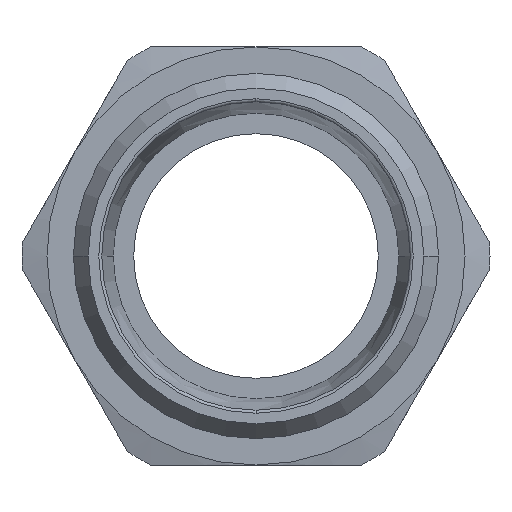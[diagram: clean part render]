
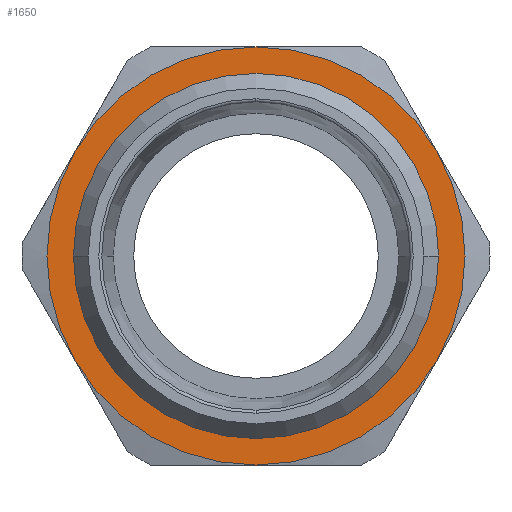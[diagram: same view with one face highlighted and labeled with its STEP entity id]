
A CAD part, left-side view. The second image highlights one B-rep face of the part: STEP entity #1650.
In plain terms, the highlighted planar face has unit normal (-1, 0, 0) as drawn and (0, 0, 1) by its records, which use the part's own axes.
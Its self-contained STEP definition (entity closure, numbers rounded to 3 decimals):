
#808=CARTESIAN_POINT('',(-17.65,0.,4.0));
#809=VERTEX_POINT('',#808);
#835=CARTESIAN_POINT('',(17.65,0.,4.0));
#836=VERTEX_POINT('',#835);
#844=CARTESIAN_POINT('',(0.,0.,4.0));
#845=DIRECTION('',(0.0,0.0,1.0));
#846=DIRECTION('',(-1.0,0.0,0.0));
#847=AXIS2_PLACEMENT_3D('',#844,#845,#846);
#848=CIRCLE('',#847,17.65);
#849=EDGE_CURVE('',#836,#809,#848,.T.);
#1530=CARTESIAN_POINT('',(0.,-17.65,4.));
#1531=VERTEX_POINT('',#1530);
#1532=CARTESIAN_POINT('',(0.,0.,4.0));
#1533=DIRECTION('',(0.0,0.0,1.0));
#1534=DIRECTION('',(-1.0,0.0,0.0));
#1535=AXIS2_PLACEMENT_3D('',#1532,#1533,#1534);
#1536=CIRCLE('',#1535,17.65);
#1537=EDGE_CURVE('',#809,#1531,#1536,.T.);
#1539=CARTESIAN_POINT('',(0.,0.,4.0));
#1540=DIRECTION('',(0.0,0.0,1.0));
#1541=DIRECTION('',(-1.0,0.0,0.0));
#1542=AXIS2_PLACEMENT_3D('',#1539,#1540,#1541);
#1543=CIRCLE('',#1542,17.65);
#1544=EDGE_CURVE('',#1531,#836,#1543,.T.);
#1584=CARTESIAN_POINT('',(0.,0.,4.0));
#1585=DIRECTION('',(0.0,0.0,1.0));
#1586=DIRECTION('',(1.0,0.0,0.0));
#1587=AXIS2_PLACEMENT_3D('',#1584,#1585,#1586);
#1588=PLANE('',#1587);
#1589=CARTESIAN_POINT('',(10.25,-17.754,4.0));
#1590=VERTEX_POINT('',#1589);
#1591=CARTESIAN_POINT('',(20.5,0.0,4.0));
#1592=VERTEX_POINT('',#1591);
#1593=CARTESIAN_POINT('',(0.,0.0,4.0));
#1594=DIRECTION('',(0.0,0.0,1.0));
#1595=DIRECTION('',(1.0,0.0,0.0));
#1596=AXIS2_PLACEMENT_3D('',#1593,#1594,#1595);
#1597=CIRCLE('',#1596,20.5);
#1598=EDGE_CURVE('',#1590,#1592,#1597,.T.);
#1599=ORIENTED_EDGE('',*,*,#1598,.T.);
#1600=CARTESIAN_POINT('',(10.25,17.754,4.0));
#1601=VERTEX_POINT('',#1600);
#1602=CARTESIAN_POINT('',(0.,0.0,4.0));
#1603=DIRECTION('',(0.0,0.0,1.0));
#1604=DIRECTION('',(1.0,0.0,0.0));
#1605=AXIS2_PLACEMENT_3D('',#1602,#1603,#1604);
#1606=CIRCLE('',#1605,20.5);
#1607=EDGE_CURVE('',#1592,#1601,#1606,.T.);
#1608=ORIENTED_EDGE('',*,*,#1607,.T.);
#1609=CARTESIAN_POINT('',(-10.25,17.754,4.0));
#1610=VERTEX_POINT('',#1609);
#1611=CARTESIAN_POINT('',(0.,0.0,4.0));
#1612=DIRECTION('',(0.0,0.0,1.0));
#1613=DIRECTION('',(1.0,0.0,0.0));
#1614=AXIS2_PLACEMENT_3D('',#1611,#1612,#1613);
#1615=CIRCLE('',#1614,20.5);
#1616=EDGE_CURVE('',#1601,#1610,#1615,.T.);
#1617=ORIENTED_EDGE('',*,*,#1616,.T.);
#1618=CARTESIAN_POINT('',(-20.5,0.,4.0));
#1619=VERTEX_POINT('',#1618);
#1620=CARTESIAN_POINT('',(0.,0.0,4.0));
#1621=DIRECTION('',(0.0,0.0,1.0));
#1622=DIRECTION('',(1.0,0.0,0.0));
#1623=AXIS2_PLACEMENT_3D('',#1620,#1621,#1622);
#1624=CIRCLE('',#1623,20.5);
#1625=EDGE_CURVE('',#1610,#1619,#1624,.T.);
#1626=ORIENTED_EDGE('',*,*,#1625,.T.);
#1627=CARTESIAN_POINT('',(-10.25,-17.754,4.0));
#1628=VERTEX_POINT('',#1627);
#1629=CARTESIAN_POINT('',(0.,0.0,4.0));
#1630=DIRECTION('',(0.0,0.0,1.0));
#1631=DIRECTION('',(1.0,0.0,0.0));
#1632=AXIS2_PLACEMENT_3D('',#1629,#1630,#1631);
#1633=CIRCLE('',#1632,20.5);
#1634=EDGE_CURVE('',#1619,#1628,#1633,.T.);
#1635=ORIENTED_EDGE('',*,*,#1634,.T.);
#1636=CARTESIAN_POINT('',(0.,0.0,4.0));
#1637=DIRECTION('',(0.0,0.0,1.0));
#1638=DIRECTION('',(1.0,0.0,0.0));
#1639=AXIS2_PLACEMENT_3D('',#1636,#1637,#1638);
#1640=CIRCLE('',#1639,20.5);
#1641=EDGE_CURVE('',#1628,#1590,#1640,.T.);
#1642=ORIENTED_EDGE('',*,*,#1641,.T.);
#1643=EDGE_LOOP('',(#1599,#1608,#1617,#1626,#1635,#1642));
#1644=FACE_OUTER_BOUND('',#1643,.T.);
#1645=ORIENTED_EDGE('',*,*,#1544,.F.);
#1646=ORIENTED_EDGE('',*,*,#1537,.F.);
#1647=ORIENTED_EDGE('',*,*,#849,.F.);
#1648=EDGE_LOOP('',(#1645,#1646,#1647));
#1649=FACE_BOUND('',#1648,.T.);
#1650=ADVANCED_FACE('',(#1644,#1649),#1588,.T.);
